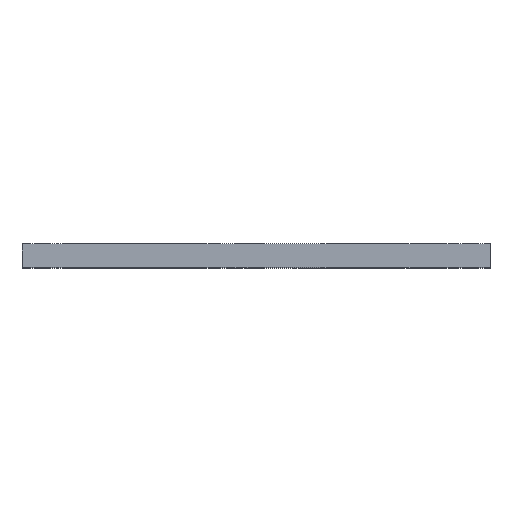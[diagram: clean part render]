
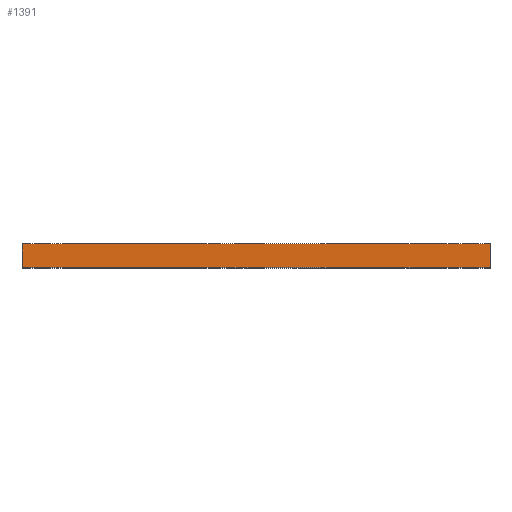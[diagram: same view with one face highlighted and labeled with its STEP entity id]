
A CAD part, top view. The second image highlights one B-rep face of the part: STEP entity #1391.
In plain terms, the highlighted planar face has unit normal (0, 0, 1).
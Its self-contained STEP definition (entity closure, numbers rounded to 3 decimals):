
#80=PLANE('',#1546);
#145=FACE_OUTER_BOUND('',#212,.T.);
#212=EDGE_LOOP('',(#1130,#1131,#1132,#1133));
#363=LINE('',#2309,#480);
#364=LINE('',#2312,#481);
#365=LINE('',#2314,#482);
#366=LINE('',#2315,#483);
#480=VECTOR('',#1917,10.);
#481=VECTOR('',#1920,10.);
#482=VECTOR('',#1921,10.);
#483=VECTOR('',#1922,10.);
#693=VERTEX_POINT('',#2305);
#694=VERTEX_POINT('',#2307);
#695=VERTEX_POINT('',#2311);
#696=VERTEX_POINT('',#2313);
#879=EDGE_CURVE('',#693,#694,#363,.T.);
#880=EDGE_CURVE('',#695,#693,#364,.T.);
#881=EDGE_CURVE('',#696,#694,#365,.T.);
#882=EDGE_CURVE('',#695,#696,#366,.T.);
#1130=ORIENTED_EDGE('',*,*,#880,.T.);
#1131=ORIENTED_EDGE('',*,*,#879,.T.);
#1132=ORIENTED_EDGE('',*,*,#881,.F.);
#1133=ORIENTED_EDGE('',*,*,#882,.F.);
#1391=ADVANCED_FACE('',(#145),#80,.T.);
#1546=AXIS2_PLACEMENT_3D('',#2310,#1918,#1919);
#1917=DIRECTION('',(0.,1.,0.));
#1918=DIRECTION('center_axis',(0.,0.,1.));
#1919=DIRECTION('ref_axis',(1.,0.,0.));
#1920=DIRECTION('',(1.,0.,0.));
#1921=DIRECTION('',(1.,0.,0.));
#1922=DIRECTION('',(0.,1.,0.));
#2305=CARTESIAN_POINT('',(50.,0.,50.));
#2307=CARTESIAN_POINT('',(50.,5.,50.));
#2309=CARTESIAN_POINT('',(50.,0.,50.));
#2310=CARTESIAN_POINT('Origin',(-50.,0.,50.));
#2311=CARTESIAN_POINT('',(-50.,0.,50.));
#2312=CARTESIAN_POINT('',(-50.,0.,50.));
#2313=CARTESIAN_POINT('',(-50.,5.,50.));
#2314=CARTESIAN_POINT('',(-50.,5.,50.));
#2315=CARTESIAN_POINT('',(-50.,0.,50.));
